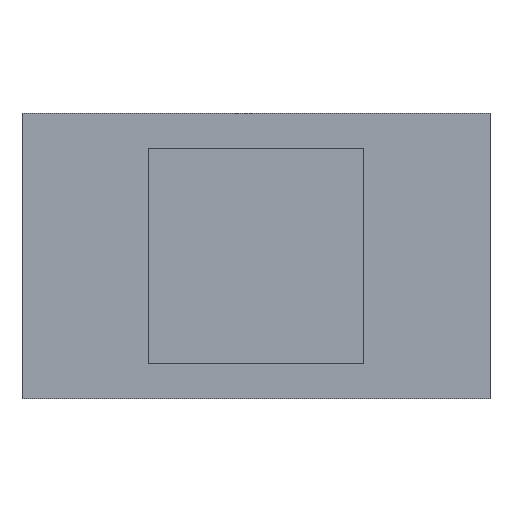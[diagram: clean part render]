
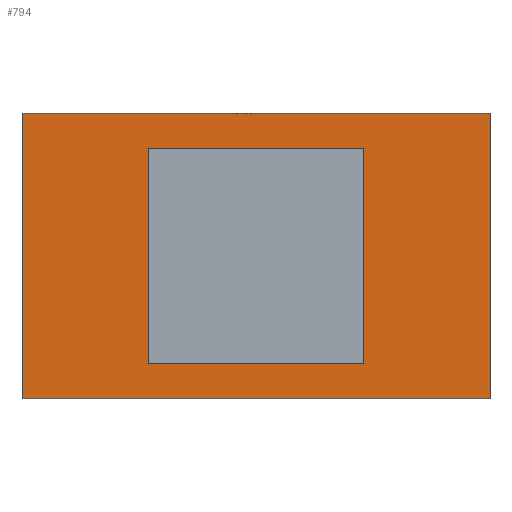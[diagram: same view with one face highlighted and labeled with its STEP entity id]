
A CAD part, front view. The second image highlights one B-rep face of the part: STEP entity #794.
In plain terms, the highlighted planar face has unit normal (0, -1, 0).
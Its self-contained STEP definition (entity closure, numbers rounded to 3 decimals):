
#22 = DIRECTION ( 'NONE',  ( 1., 0., 0. ) ) ;
#43 = LINE ( 'NONE', #636, #650 ) ;
#47 = VERTEX_POINT ( 'NONE', #541 ) ;
#54 = DIRECTION ( 'NONE',  ( 0., 0., 1. ) ) ;
#66 = ORIENTED_EDGE ( 'NONE', *, *, #727, .F. ) ;
#77 = DIRECTION ( 'NONE',  ( 1., 0., 0. ) ) ;
#82 = CARTESIAN_POINT ( 'NONE',  ( 41., 0., 41. ) ) ;
#104 = CARTESIAN_POINT ( 'NONE',  ( -89., 0., 54.25 ) ) ;
#136 = VERTEX_POINT ( 'NONE', #82 ) ;
#137 = DIRECTION ( 'NONE',  ( 0., 0., 1. ) ) ;
#150 = PLANE ( 'NONE',  #616 ) ;
#159 = EDGE_LOOP ( 'NONE', ( #407, #714, #644, #163 ) ) ;
#163 = ORIENTED_EDGE ( 'NONE', *, *, #814, .T. ) ;
#164 = CARTESIAN_POINT ( 'NONE',  ( -89., 0., -54.25 ) ) ;
#168 = LINE ( 'NONE', #803, #840 ) ;
#174 = VECTOR ( 'NONE', #177, 1000. ) ;
#177 = DIRECTION ( 'NONE',  ( -1., 0., 0. ) ) ;
#184 = VECTOR ( 'NONE', #137, 1000. ) ;
#216 = LINE ( 'NONE', #495, #174 ) ;
#233 = VERTEX_POINT ( 'NONE', #242 ) ;
#237 = FACE_BOUND ( 'NONE', #159, .T. ) ;
#242 = CARTESIAN_POINT ( 'NONE',  ( -89., 0., 54.25 ) ) ;
#262 = VERTEX_POINT ( 'NONE', #757 ) ;
#283 = CARTESIAN_POINT ( 'NONE',  ( -89., 0., -54.25 ) ) ;
#296 = EDGE_CURVE ( 'NONE', #740, #330, #216, .T. ) ;
#307 = CARTESIAN_POINT ( 'NONE',  ( -41., 0., -41. ) ) ;
#309 = DIRECTION ( 'NONE',  ( 0., 0., -1. ) ) ;
#330 = VERTEX_POINT ( 'NONE', #307 ) ;
#339 = EDGE_CURVE ( 'NONE', #47, #698, #43, .T. ) ;
#340 = VECTOR ( 'NONE', #780, 1000. ) ;
#344 = EDGE_LOOP ( 'NONE', ( #493, #704, #396, #66 ) ) ;
#361 = LINE ( 'NONE', #589, #184 ) ;
#383 = FACE_OUTER_BOUND ( 'NONE', #344, .T. ) ;
#396 = ORIENTED_EDGE ( 'NONE', *, *, #551, .F. ) ;
#407 = ORIENTED_EDGE ( 'NONE', *, *, #498, .T. ) ;
#413 = DIRECTION ( 'NONE',  ( 0., -1., 0. ) ) ;
#419 = LINE ( 'NONE', #104, #739 ) ;
#424 = DIRECTION ( 'NONE',  ( -1., 0., 0. ) ) ;
#429 = VECTOR ( 'NONE', #424, 1000. ) ;
#455 = CARTESIAN_POINT ( 'NONE',  ( 41., 0., 41. ) ) ;
#470 = CARTESIAN_POINT ( 'NONE',  ( 0., 0., 0. ) ) ;
#493 = ORIENTED_EDGE ( 'NONE', *, *, #339, .F. ) ;
#495 = CARTESIAN_POINT ( 'NONE',  ( -41., 0., -41. ) ) ;
#498 = EDGE_CURVE ( 'NONE', #136, #740, #502, .T. ) ;
#502 = LINE ( 'NONE', #455, #340 ) ;
#503 = EDGE_CURVE ( 'NONE', #330, #262, #361, .T. ) ;
#514 = EDGE_CURVE ( 'NONE', #233, #47, #837, .T. ) ;
#518 = CARTESIAN_POINT ( 'NONE',  ( -89., 0., 54.25 ) ) ;
#541 = CARTESIAN_POINT ( 'NONE',  ( 89., 0., 54.25 ) ) ;
#551 = EDGE_CURVE ( 'NONE', #812, #233, #419, .T. ) ;
#589 = CARTESIAN_POINT ( 'NONE',  ( -41., 0., 41. ) ) ;
#608 = DIRECTION ( 'NONE',  ( 0., 0., -1. ) ) ;
#616 = AXIS2_PLACEMENT_3D ( 'NONE', #470, #413, #608 ) ;
#636 = CARTESIAN_POINT ( 'NONE',  ( 89., 0., 54.25 ) ) ;
#644 = ORIENTED_EDGE ( 'NONE', *, *, #503, .T. ) ;
#650 = VECTOR ( 'NONE', #309, 1000. ) ;
#698 = VERTEX_POINT ( 'NONE', #729 ) ;
#704 = ORIENTED_EDGE ( 'NONE', *, *, #514, .F. ) ;
#714 = ORIENTED_EDGE ( 'NONE', *, *, #296, .T. ) ;
#727 = EDGE_CURVE ( 'NONE', #698, #812, #749, .T. ) ;
#729 = CARTESIAN_POINT ( 'NONE',  ( 89., 0., -54.25 ) ) ;
#739 = VECTOR ( 'NONE', #54, 1000. ) ;
#740 = VERTEX_POINT ( 'NONE', #813 ) ;
#749 = LINE ( 'NONE', #164, #429 ) ;
#757 = CARTESIAN_POINT ( 'NONE',  ( -41., 0., 41. ) ) ;
#758 = VECTOR ( 'NONE', #77, 1000. ) ;
#780 = DIRECTION ( 'NONE',  ( 0., 0., -1. ) ) ;
#794 = ADVANCED_FACE ( 'NONE', ( #237, #383 ), #150, .T. ) ;
#803 = CARTESIAN_POINT ( 'NONE',  ( -41., 0., 41. ) ) ;
#812 = VERTEX_POINT ( 'NONE', #283 ) ;
#813 = CARTESIAN_POINT ( 'NONE',  ( 41., 0., -41. ) ) ;
#814 = EDGE_CURVE ( 'NONE', #262, #136, #168, .T. ) ;
#837 = LINE ( 'NONE', #518, #758 ) ;
#840 = VECTOR ( 'NONE', #22, 1000. ) ;
